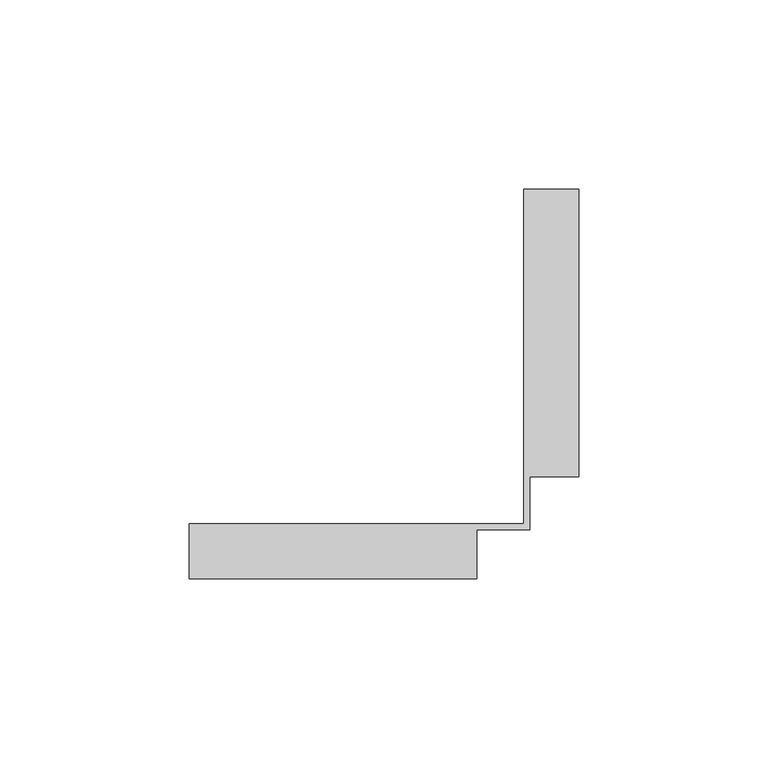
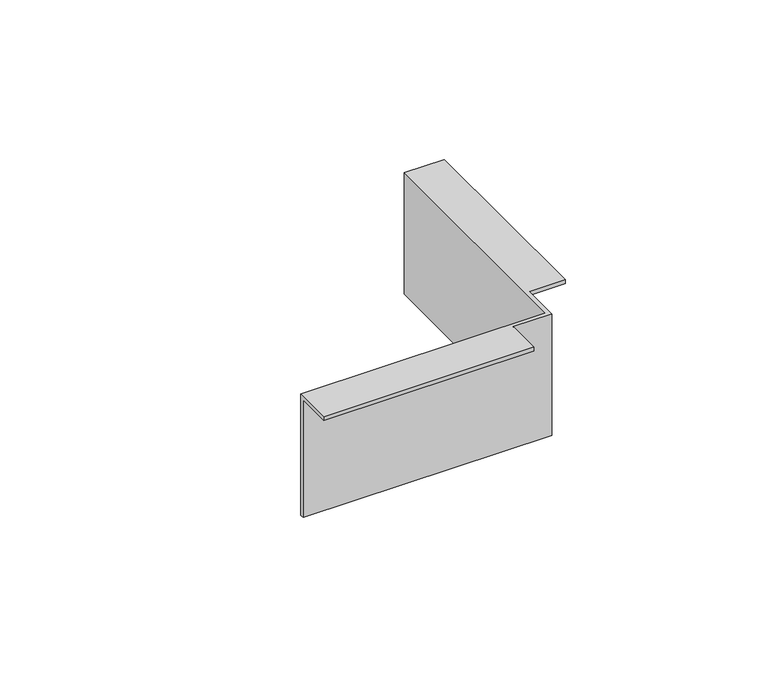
"""IFC4 building model written with IfcOpenShell, lengths in millimetres: cable carrier fitting geometry, BAKS_LD_CONN_Angle coupler bendable_LKU : LKUP_H45."""

from ifc_helpers import new_model, si_unit, origin, place, context, project, spatial, faceted_brep, source, transform, mapped, element, save


def cable_carrier_fitting_c660702d(model_context):
    return source(origin(), model_context, "Body", "Brep", [
        faceted_brep([(-90.0, 0.0, 45.0), (-90.0, -13.0, 45.0), (-90.0, -13.0, 46.5), (-90.0, 1.5, 46.5), (-90.0, 1.5, 0.0), (-90.0, 0.0, 0.0), (0.0, 0.0, 0.0), (0.0, 0.0, 46.5), (-14.0, 0.0, 46.5), (-14.0, 0.0, 45.0), (-1.5, 1.5, 0.0), (-1.5, 90.0, 0.0), (0.0, 90.0, 0.0), (-1.5, 1.5, 46.5), (-14.0, -13.0, 45.0), (13.0, 90.0, 45.0), (13.0, 14.0, 45.0), (0.0, 14.0, 45.0), (0.0, 90.0, 45.0), (-14.0, -13.0, 46.5), (0.0, 14.0, 46.5), (13.0, 14.0, 46.5), (13.0, 90.0, 46.5), (-1.5, 90.0, 46.5)], [[[0, 1, 2, 3, 4, 5]], [[5, 6, 7, 8, 9, 0]], [[4, 10, 11, 12, 6, 5]], [[3, 13, 10, 4]], [[0, 9, 14, 1]], [[15, 16, 17, 18]], [[1, 14, 19, 2]], [[2, 19, 8, 7, 20, 21, 22, 23, 13, 3]], [[11, 23, 22, 15, 18, 12]], [[6, 12, 18, 17, 20, 7]], [[10, 13, 23, 11]], [[22, 21, 16, 15]], [[17, 16, 21, 20]], [[8, 19, 14, 9]]]),
    ])


if __name__ == "__main__":
    model = new_model("IFC4")
    model_context = context("Model", 3, world=origin())
    ifc_project = project(units=[si_unit("LENGTHUNIT", "METRE", prefix="MILLI")], contexts=[model_context])
    site = spatial("IfcSite", under=ifc_project)
    building = spatial("IfcBuilding", under=site)
    placement = place(None, origin())
    cable_carrier_fitting_shape = cable_carrier_fitting_c660702d(model_context)
    element("IfcCableCarrierFitting", 1, ObjectType="BAKS_LD_CONN_Angle coupler bendable_LKU : LKUP_H45", at=placement, inside=building, context=model_context, shape_type="MappedRepresentation", body=[
        mapped(cable_carrier_fitting_shape, transform((0.0, 0.0, 0.0), x_axis=(1.0, 0.0, 0.0), y_axis=(0.0, 1.0, 0.0), z_axis=(0.0, 0.0, 1.0))),
    ])
    save(model, "model.ifc")
